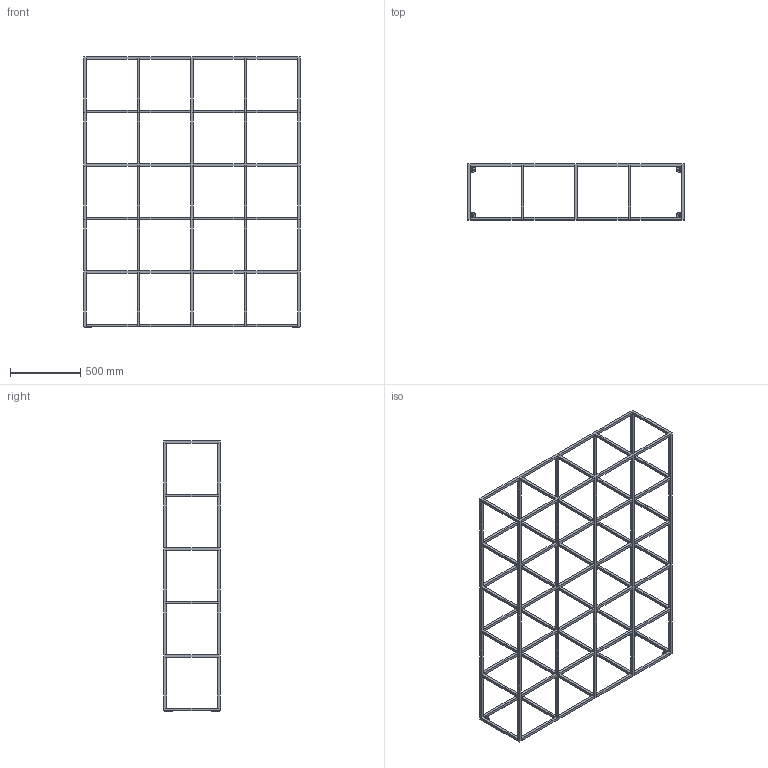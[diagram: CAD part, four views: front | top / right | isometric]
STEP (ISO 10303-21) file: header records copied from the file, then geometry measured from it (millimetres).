
FILE_DESCRIPTION(/* description */ (''),/* implementation_level */ '2;1');
FILE_NAME(/* name */ 'KINOSH~1',/* time_stamp */ '2021-12-07T17:19:24+09:00',/* author */ (''),/* organization */ (''),/* preprocessor_version */ 'ST-DEVELOPER v16.5',/* originating_system */ '',/* authorisation */ '');
FILE_SCHEMA (('AUTOMOTIVE_DESIGN'));
Length unit declared in the file: millimetre
Products named in the file (1): Document
Bounding box: 1543 x 400 x 1927.2 mm (x, y, z)
Volume: 28198744.5 mm3; surface area: 5891360.7 mm2
Topology: 16 solids, 16 shells, 994 faces, 2182 edges, 1008 vertices
Faces by surface type: plane 940, bspline 54
Entity records: 23801 total; most frequent: CARTESIAN_POINT 8058, ORIENTED_EDGE 4364, EDGE_CURVE 2182, B_SPLINE_CURVE_WITH_KNOTS 2020, EDGE_LOOP 1078, VERTEX_POINT 1008, ADVANCED_FACE 994, FACE_OUTER_BOUND 994
